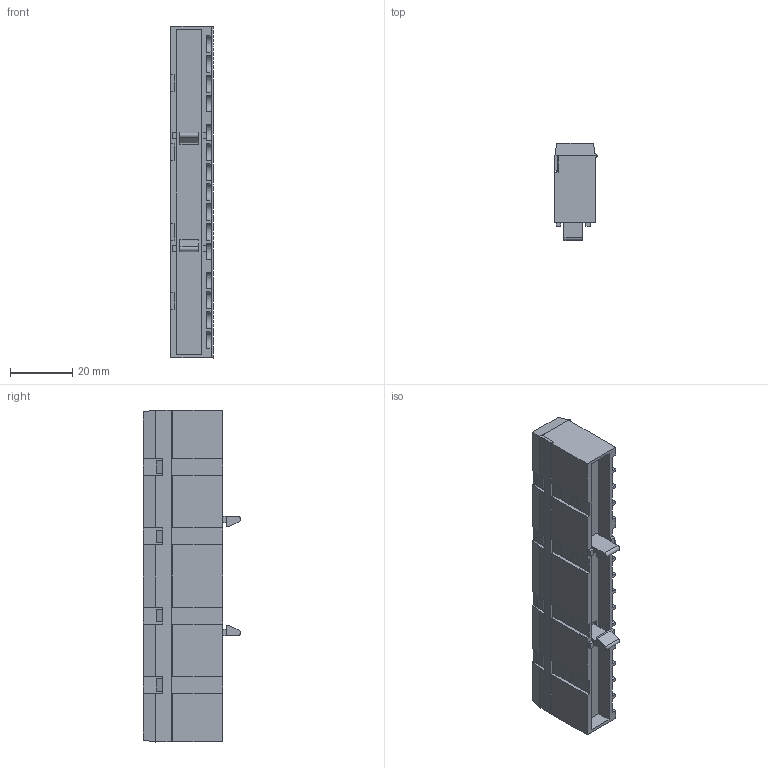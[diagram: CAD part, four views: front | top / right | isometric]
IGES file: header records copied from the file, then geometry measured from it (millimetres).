
Start section: SolidWorks IGES file using analytic representation for surfaces
Global section: file name: D:\3D modely\XXXXXXX NOVÉ SLOŽKY 3D MODELY\IGES\Minia\CS-_\CS-L15.IGS; native system: SolidWorks 2015; preprocessor: SolidWorks 2015; author: adhrja3; date: 180905.103912; units: millimetre
Bounding box: 13.6 x 31.3 x 107 mm (x, y, z)
Surface area: 27638.9 mm2 (no closed solid volume)
Topology: 0 solids, 0 shells, 676 faces, 9014 edges, 9014 vertices
Faces by surface type: bspline 448, revolution 228
